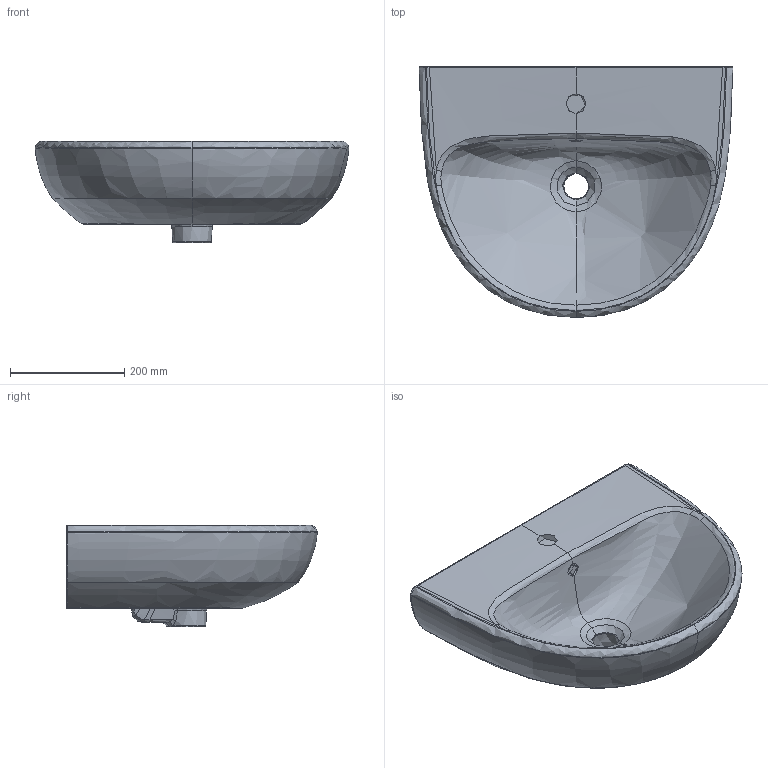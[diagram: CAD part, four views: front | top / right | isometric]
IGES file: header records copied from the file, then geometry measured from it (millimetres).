
Global section: file name: 500315; native system: Autodesk Inventor 2018; preprocessor: unknown; author: JANAN; date: 20200527.084149; units: millimetre
Bounding box: 549.92 x 440.02 x 178.75 mm (x, y, z)
Volume: 16920057.3 mm3; surface area: 648770.1 mm2
Topology: 1 solids, 1 shells, 101 faces, 245 edges, 148 vertices
Faces by surface type: bspline 101
